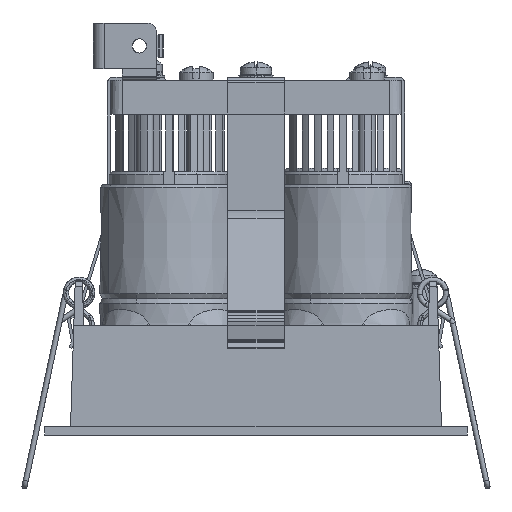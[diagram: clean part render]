
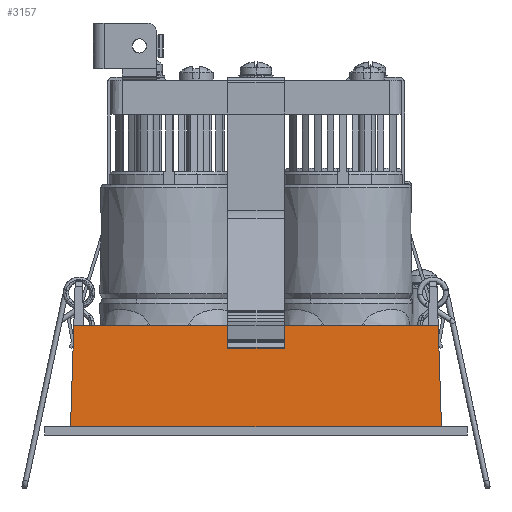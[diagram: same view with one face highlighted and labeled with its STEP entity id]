
A CAD part, left-side view. The second image highlights one B-rep face of the part: STEP entity #3157.
In plain terms, the highlighted planar face has unit normal (-1, 0, 0.033).
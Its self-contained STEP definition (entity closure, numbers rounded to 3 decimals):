
#49=DIRECTION('',(-0.033,-0.033,-0.999));
#50=VECTOR('',#49,17.719);
#51=CARTESIAN_POINT('',(-32.025,-32.025,19.2));
#52=LINE('',#51,#50);
#53=DIRECTION('',(0.,1.,0.));
#54=VECTOR('',#53,65.202);
#55=CARTESIAN_POINT('',(-32.601,-32.601,1.5));
#56=LINE('',#55,#54);
#97=DIRECTION('',(-0.033,0.033,-0.999));
#98=VECTOR('',#97,17.719);
#99=CARTESIAN_POINT('',(-32.025,32.025,19.2));
#100=LINE('',#99,#98);
#284=DIRECTION('',(0.,1.,0.));
#285=VECTOR('',#284,64.05);
#286=CARTESIAN_POINT('',(-32.025,-32.025,19.2));
#287=LINE('',#286,#285);
#2406=CARTESIAN_POINT('',(-32.601,-32.601,1.5));
#2407=CARTESIAN_POINT('',(-32.601,32.601,1.5));
#2408=VERTEX_POINT('',#2406);
#2409=VERTEX_POINT('',#2407);
#2414=CARTESIAN_POINT('',(-32.025,32.025,19.2));
#2415=VERTEX_POINT('',#2414);
#2416=CARTESIAN_POINT('',(-32.025,-32.025,19.2));
#2417=VERTEX_POINT('',#2416);
#3143=CARTESIAN_POINT('',(-32.338,0.,9.6));
#3144=DIRECTION('',(-0.999,0.,0.033));
#3145=DIRECTION('',(0.,-1.,0.));
#3146=AXIS2_PLACEMENT_3D('',#3143,#3144,#3145);
#3147=PLANE('',#3146);
#3149=ORIENTED_EDGE('',*,*,#3148,.F.);
#3151=ORIENTED_EDGE('',*,*,#3150,.F.);
#3153=ORIENTED_EDGE('',*,*,#3152,.T.);
#3154=ORIENTED_EDGE('',*,*,#3132,.T.);
#3155=EDGE_LOOP('',(#3149,#3151,#3153,#3154));
#3156=FACE_OUTER_BOUND('',#3155,.F.);
#3157=ADVANCED_FACE('',(#3156),#3147,.T.);
#3132=EDGE_CURVE('',#2408,#2409,#56,.T.);
#3148=EDGE_CURVE('',#2415,#2409,#100,.T.);
#3150=EDGE_CURVE('',#2417,#2415,#287,.T.);
#3152=EDGE_CURVE('',#2417,#2408,#52,.T.);
